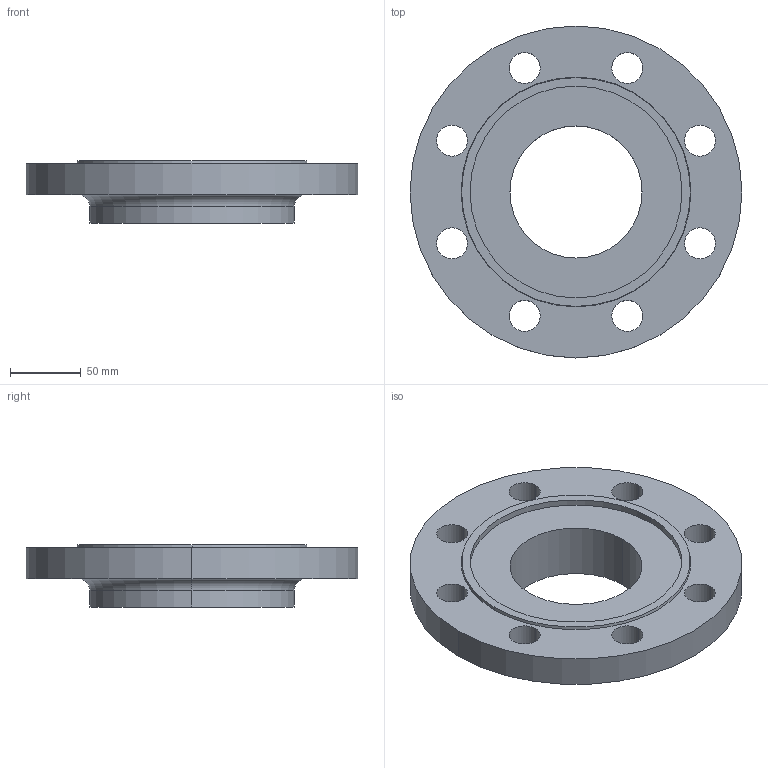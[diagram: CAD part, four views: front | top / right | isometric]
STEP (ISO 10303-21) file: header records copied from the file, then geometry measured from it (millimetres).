
FILE_DESCRIPTION (( 'STEP AP214' ), '1' );
FILE_NAME ('PN40 DN100 Type 13 - Type F Face.STEP', '2019-01-02T00:17:55', ( '' ), ( '' ), 'SwSTEP 2.0', 'SolidWorks 2019', '' );
FILE_SCHEMA (( 'AUTOMOTIVE_DESIGN' ));
Length unit declared in the file: millimetre
Products named in the file (1): PN40 DN100 Type 13 - Type F Face
Bounding box: 235 x 235 x 44 mm (x, y, z)
Volume: 914627.1 mm3; surface area: 117492.4 mm2
Topology: 1 solids, 1 shells, 33 faces, 82 edges, 54 vertices
Faces by surface type: cylinder 24, plane 5, torus 2, cone 2
Entity records: 1086 total; most frequent: DIRECTION 206, CARTESIAN_POINT 170, ORIENTED_EDGE 164, AXIS2_PLACEMENT_3D 90, EDGE_CURVE 82, CIRCLE 56, VERTEX_POINT 54, EDGE_LOOP 54
